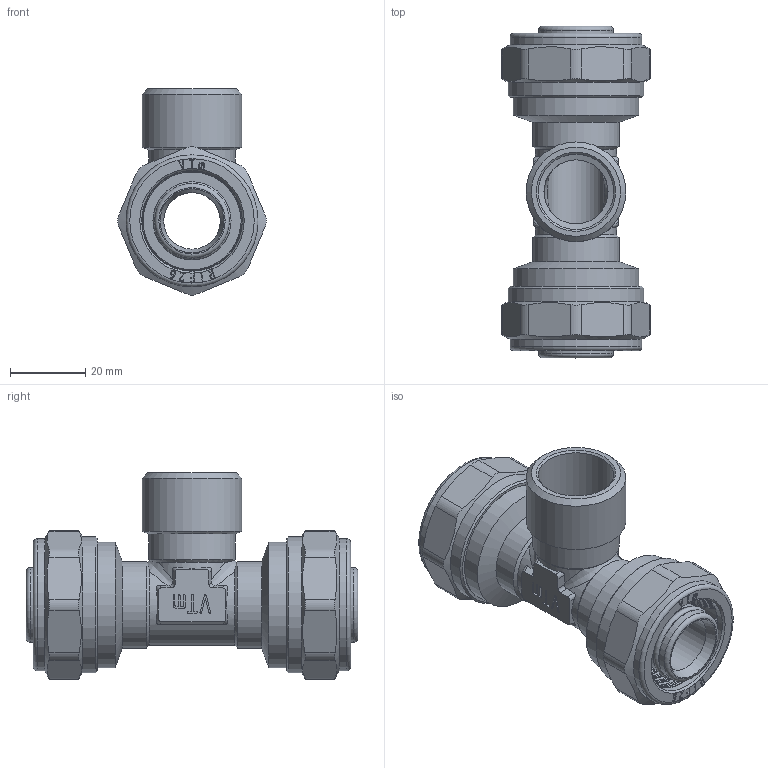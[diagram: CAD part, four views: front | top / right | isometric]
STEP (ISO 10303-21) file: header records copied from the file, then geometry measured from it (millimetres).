
FILE_DESCRIPTION(('STEP AP203'), '1');
FILE_NAME('VTm.333.N.260526', '', ('UNSPECIFIED'), ('UNSPECIFIED'), 'C3D Converter', 'C3D Toolkit', '');
FILE_SCHEMA(('CONFIG_CONTROL_DESIGN'));
Length unit declared in the file: millimetre
Products named in the file (1): ВР.302635.080.000 СБ
Bounding box: 39.39 x 88 x 54.69 mm (x, y, z)
Volume: 40943.3 mm3; surface area: 29882.3 mm2
Topology: 1 solids, 1 shells, 768 faces, 2109 edges, 1390 vertices
Faces by surface type: extrusion 324, plane 255, cylinder 94, torus 58, cone 33, bspline 2, sphere 2
Full cylindrical faces by diameter (mm): 15 x1, 17 x1, 17.4 x8, 19.8 x10, 20 x3, 23 x3, 26.2 x2, 26.441 x1, 26.7 x2, 30.292 x2, 33.249 x2, 35 x2, 36 x2
Entity records: 28858 total; most frequent: CARTESIAN_POINT 11344, ORIENTED_EDGE 4028, DIRECTION 2524, EDGE_CURVE 2014, VERTEX_POINT 1390, VECTOR 1228, B_SPLINE_CURVE_WITH_KNOTS 1167, EDGE_LOOP 914
